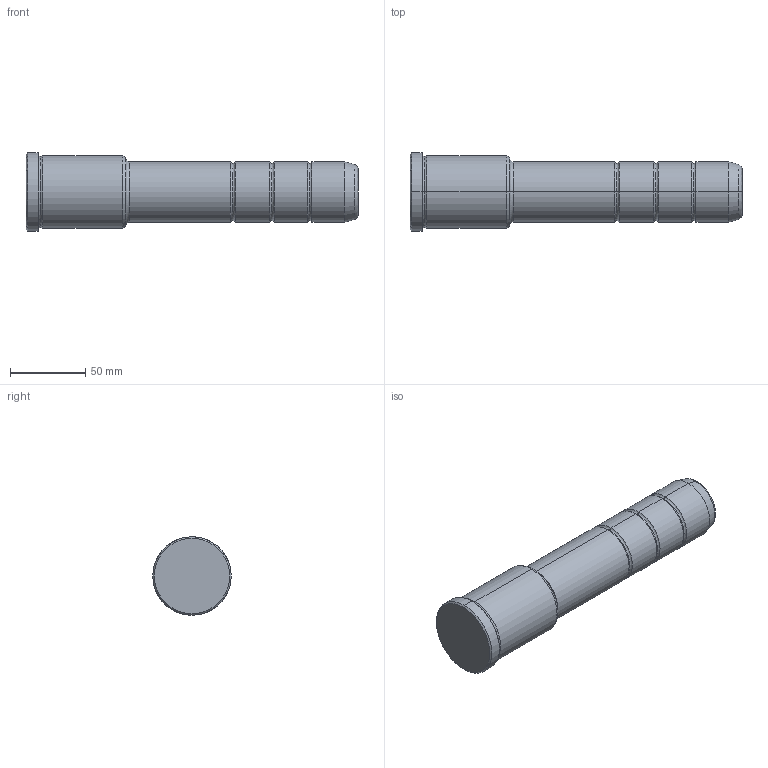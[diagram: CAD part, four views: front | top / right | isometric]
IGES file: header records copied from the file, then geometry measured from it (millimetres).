
Start section: START RECORD GO HERE.
Global section: file name: 351-40X66X220.igs; native system: DASSAULT SYSTEMES CATIA V5 R20 - www.3ds.com; preprocessor: CATIA Version 5 Release 20 ; author: Utente; organization: NB04-ASUS; date: 20211028.202230; units: millimetre
Bounding box: 220 x 52 x 52 mm (x, y, z)
Surface area: 33188.3 mm2 (no closed solid volume)
Topology: 0 solids, 0 shells, 42 faces, 236 edges, 236 vertices
Faces by surface type: revolution 38, plane 4
